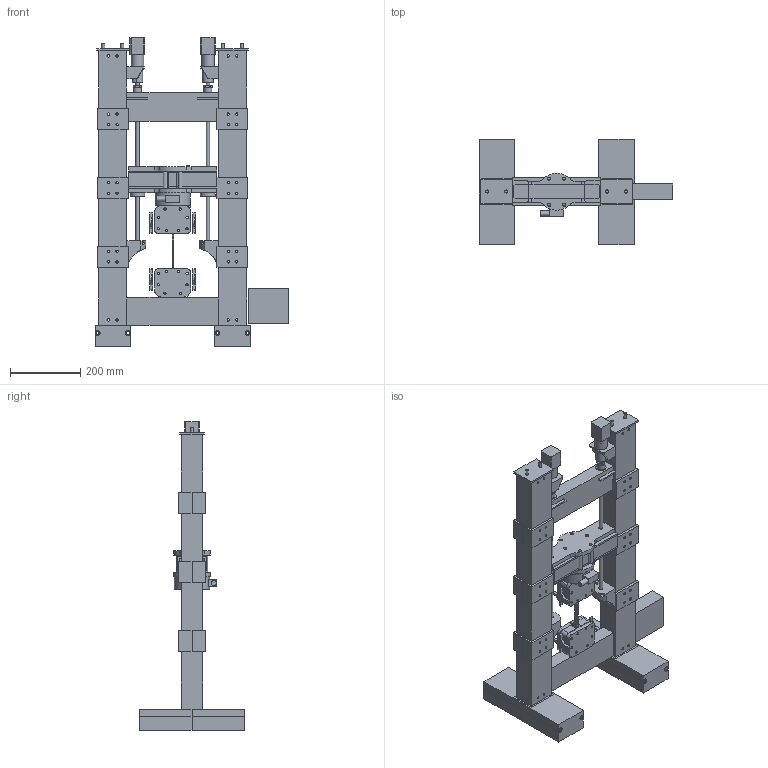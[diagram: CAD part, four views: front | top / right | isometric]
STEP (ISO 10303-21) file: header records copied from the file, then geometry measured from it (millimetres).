
FILE_DESCRIPTION(('FreeCAD Model'),'2;1');
FILE_NAME('Open CASCADE Shape Model','2026-10-24T23:46:24',('Author'),( ''),'Open CASCADE STEP processor 7.8','FreeCAD','Unknown');
FILE_SCHEMA(('AUTOMOTIVE_DESIGN { 1 0 10303 214 1 1 1 1 }'));
Length unit declared in the file: millimetre
Products named in the file (92): OpenPull_030_rod_reinforced; Original_Part__Feature; Original_Part__Feature001; Original_Part__Feature002; Original_Part__Feature003; Original_Part__Feature004; Original_Part__Feature005; Original_Part__Feature006; Original_Part__Feature007; Original_Part__Feature008; Original_Part__Feature009; Original_Part__Feature010; Original_Part__Feature011; Original_Part__Feature012; Original_Part__Feature013; Original_Part__Feature014; Original_Part__Feature015; Original_Part__Feature016; Original_Part__Feature017; Original_Part__Feature018; Original_Part__Feature019; Original_Part__Feature020; Original_Part__Feature021; Original_Part__Feature022; Original_Part__Feature023; Original_Part__Feature024; Original_Part__Feature025; Original_Part__Feature026; Original_Part__Feature027; Original_Part__Feature028; Original_Part__Feature029; Original_Part__Feature030; Original_Part__Feature031; Original_Part__Feature032; Original_Part__Feature033; Original_Part__Feature034; Original_Part__Feature035; Original_Part__Feature036; Original_Part__Feature037; Original_Part__Feature038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
Assembly tree (91 placements, depth 2):
  OpenPull_030_rod_reinforced
    Original_Part__Feature
    Original_Part__Feature001
    Original_Part__Feature002
    Original_Part__Feature003
    Original_Part__Feature004
    Original_Part__Feature005
    Original_Part__Feature006
    Original_Part__Feature007
    Original_Part__Feature008
    Original_Part__Feature009
    Original_Part__Feature010
    Original_Part__Feature011
    Original_Part__Feature012
    Original_Part__Feature013
    Original_Part__Feature014
    Original_Part__Feature015
    Original_Part__Feature016
    Original_Part__Feature017
    Original_Part__Feature018
    Original_Part__Feature019
    Original_Part__Feature020
    Original_Part__Feature021
    Original_Part__Feature022
    Original_Part__Feature023
    Original_Part__Feature024
    Original_Part__Feature025
    Original_Part__Feature026
    Original_Part__Feature027
    Original_Part__Feature028
    Original_Part__Feature029
    Original_Part__Feature030
    Original_Part__Feature031
    Original_Part__Feature032
    Original_Part__Feature033
    Original_Part__Feature034
    Original_Part__Feature035
    Original_Part__Feature036
    Original_Part__Feature037
    Original_Part__Feature038
    Original_Part__Feature039
    Original_Part__Feature040
    Original_Part__Feature041
    Original_Part__Feature042
    Original_Part__Feature043
    Original_Part__Feature045
    Original_Part__Feature046
    Original_Part__Feature047
    Original_Part__Feature048
    Original_Part__Feature049
    BeamFixedBottom
    BearingReactionLeft
    BearingReactionRight
    BeamFixedTop
    BeamMoving
    FootLeftFront
    FootLeftBack
    FootRightFront
    FootRightBack
    CrossheadPadLowerLeft
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Bounding box: 550 x 300 x 877 mm (x, y, z)
Volume: 7904015.3 mm3; surface area: 2923007.5 mm2
Topology: 91 solids, 91 shells, 1889 faces, 4889 edges, 3227 vertices
Faces by surface type: plane 1049, cylinder 670, bspline 136, cone 30, torus 4
Full cylindrical faces by diameter (mm): 3 x8, 3.5 x8, 4 x28, 5.3 x2, 6 x12, 6.5 x36, 6.6 x112, 8 x23, 8.6 x8, 9 x70, 9.3 x2, 10 x12, 12 x14, 14.95 x2, 15 x4, 16 x1, 17 x4, 20 x1, 22 x12, 22.3 x2, 22.5 x2, 25 x6, 26 x4, 30 x6, 35.2 x4, 35.8 x2, 36 x1, 42 x2, 55 x1, 100 x1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
Entity records: 66148 total; most frequent: CARTESIAN_POINT 16619, DIRECTION 9904, ORIENTED_EDGE 9778, EDGE_CURVE 4889, AXIS2_PLACEMENT_3D 3476, VERTEX_POINT 3227, LINE 2952, VECTOR 2952
